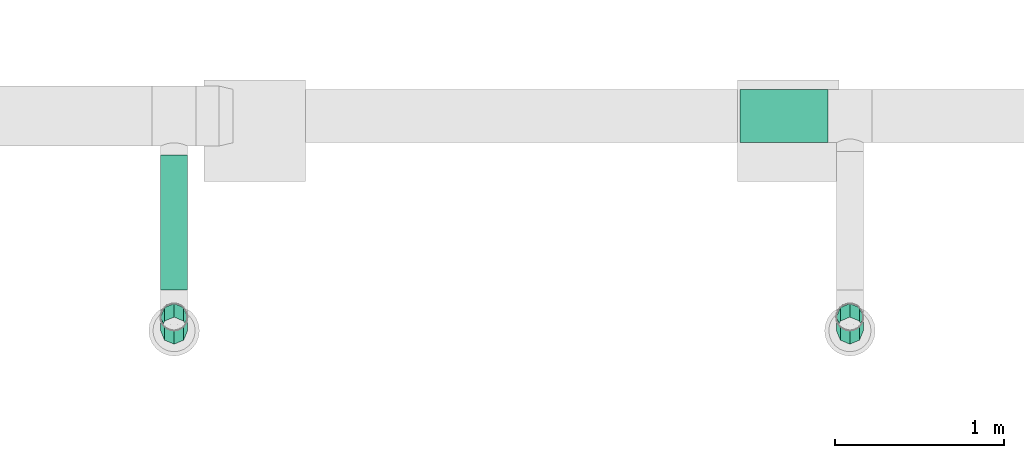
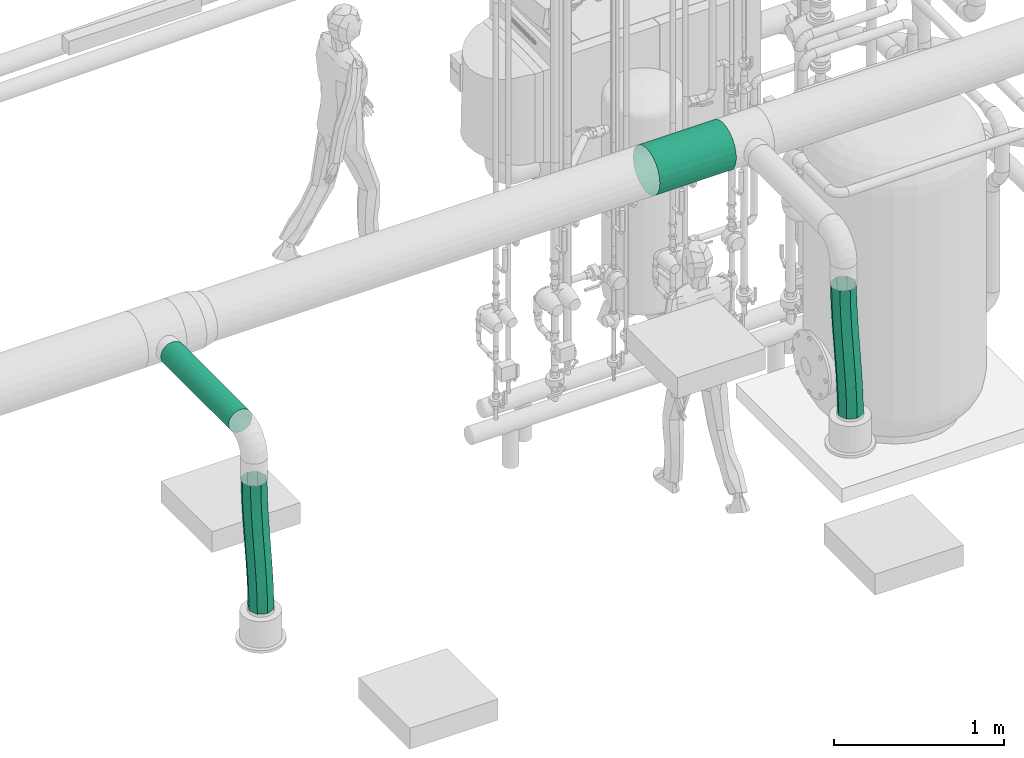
# One storey, part 249 of 374: 4 flow segments.
"""IFC2X3 building model written with IfcOpenShell, lengths in metres."""

from ifc_helpers import new_model, si_unit, direction, origin, place, context, subcontext, project, spatial, open_shell, surface_model, source, transform, mapped, element, save


model = new_model("IFC2X3")

# Units and contexts
model_context = context("Model", 3, precision=1e-05, world=origin(), true_north=direction((-0.4480736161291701, 0.8939966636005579)))
body_context = subcontext(model_context, "Body", "Model", "MODEL_VIEW")
ifc_project = project(units=[si_unit("LENGTHUNIT", "METRE"), si_unit("AREAUNIT", "SQUARE_METRE"), si_unit("VOLUMEUNIT", "CUBIC_METRE"), si_unit("PLANEANGLEUNIT", "RADIAN"), si_unit("THERMODYNAMICTEMPERATUREUNIT", "KELVIN"), si_unit("MASSUNIT", "GRAM", prefix="KILO"), si_unit("TIMEUNIT", "SECOND")], contexts=[model_context])

# Site, building, storey
site_placement = place(None, origin())
site = spatial("IfcSite", under=ifc_project, at=site_placement, Name="Site 1", CompositionType="ELEMENT")
building_placement = place(site_placement, origin())
building = spatial("IfcBuilding", under=site, at=building_placement, Name="Undefined", CompositionType="ELEMENT")
storey_placement = place(building_placement, origin())
storey = spatial("IfcBuildingStorey", under=building, at=storey_placement, Name="Rez de chauss\x8ee", CompositionType="ELEMENT", Elevation=0.0)

# Flow segments
shared_shape_1 = source(origin(), body_context, "Body", "SurfaceModel", [
    surface_model("IfcFaceBasedSurfaceModel", [(0.0, 0.020884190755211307, 0.0), (0.0, 0.0, 0.0), (0.8000010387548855, 0.0, -8.8817842e-16), (0.8000010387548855, 0.0208841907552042, -8.8817842e-16), (0.0, -0.020172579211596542, -0.005405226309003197), (0.8000010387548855, -0.020172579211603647, -0.005405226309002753), (0.0, -0.03825881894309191, -0.015847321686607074), (0.8000010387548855, -0.03825881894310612, -0.015847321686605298), (0.0, -0.05302617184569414, -0.0306146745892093), (0.8000010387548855, -0.05302617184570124, -0.03061467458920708), (0.0, -0.06346826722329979, -0.04870091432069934), (0.8000010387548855, -0.0634682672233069, -0.048700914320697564), (0.0, -0.06887349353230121, -0.06887349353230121), (0.8000010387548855, -0.06887349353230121, -0.06887349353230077), (0.0, -0.06887349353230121, -0.08975768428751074), (0.8000010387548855, -0.06887349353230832, -0.08975768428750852), (0.0, -0.06346826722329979, -0.10993026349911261), (0.8000010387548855, -0.0634682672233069, -0.10993026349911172), (0.0, -0.05302617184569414, -0.12801650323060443), (0.8000010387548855, -0.05302617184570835, -0.12801650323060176), (0.0, -0.038258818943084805, -0.14278385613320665), (0.8000010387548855, -0.03825881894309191, -0.142783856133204), (0.0, -0.020172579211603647, -0.15322595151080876), (0.8000010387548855, -0.020172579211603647, -0.1532259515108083), (0.0, 7.105427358e-15, -0.15863117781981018), (0.8000010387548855, -7.105427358e-15, -0.15863117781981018), (0.0, 0.020884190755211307, -0.15863117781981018), (0.8000010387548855, 0.0208841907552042, -0.15863117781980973), (0.0, 0.04105676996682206, -0.15322595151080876), (0.8000010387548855, 0.04105676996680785, -0.15322595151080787), (0.0, 0.05914300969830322, -0.1427838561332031), (0.8000010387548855, 0.05914300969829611, -0.142783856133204), (0.0, 0.07391036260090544, -0.12801650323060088), (0.8000010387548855, 0.07391036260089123, -0.12801650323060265), (0.0, 0.0843524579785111, -0.10993026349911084), (0.8000010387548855, 0.08435245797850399, -0.10993026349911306), (0.0, 0.08975768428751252, -0.08975768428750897), (0.8000010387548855, 0.08975768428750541, -0.08975768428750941), (0.0, 0.08975768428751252, -0.06887349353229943), (0.8000010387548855, 0.08975768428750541, -0.0688734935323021), (0.0, 0.0843524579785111, -0.048700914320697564), (0.8000010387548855, 0.08435245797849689, -0.04870091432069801), (0.0, 0.07391036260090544, -0.030614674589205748), (0.8000010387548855, 0.07391036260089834, -0.030614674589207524), (0.0, 0.05914300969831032, -0.015847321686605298), (0.8000010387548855, 0.05914300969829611, -0.01584732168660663), (0.0, 0.04105676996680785, -0.005405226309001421), (0.8000010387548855, 0.04105676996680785, -0.005405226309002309)], [open_shell([[[0, 1, 2, 3]], [[1, 4, 5, 2]], [[4, 6, 7, 5]], [[6, 8, 9, 7]], [[8, 10, 11, 9]], [[10, 12, 13, 11]], [[12, 14, 15, 13]], [[14, 16, 17, 15]], [[16, 18, 19, 17]], [[18, 20, 21, 19]], [[20, 22, 23, 21]], [[22, 24, 25, 23]], [[24, 26, 27, 25]], [[26, 28, 29, 27]], [[28, 30, 31, 29]], [[30, 32, 33, 31]], [[32, 34, 35, 33]], [[34, 36, 37, 35]], [[36, 38, 39, 37]], [[38, 40, 41, 39]], [[40, 42, 43, 41]], [[42, 44, 45, 43]], [[44, 46, 47, 45]], [[46, 0, 3, 47]]])]),
])
flow_segment_1_placement = place(storey_placement, origin())
element("IfcFlowSegment", 1, at=flow_segment_1_placement, inside=storey, Name="Tube", ObjectType="Tube", context=body_context, shape_type="MappedRepresentation", body=[
    mapped(shared_shape_1, transform((48.269295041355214, 7.994999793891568, 3.877274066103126), x_axis=(0.0, -1.0, 0.0), y_axis=(0.9914448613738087, 0.0, 0.13052619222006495), z_axis=(-0.13052619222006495, 0.0, 0.9914448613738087))),
])
shared_shape_2 = source(origin(), body_context, "Body", "SurfaceModel", [
    surface_model("IfcFaceBasedSurfaceModel", [(0.09591138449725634, 0.0, 0.0), (0.05777895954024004, 0.04790565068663, 0.0), (0.0, 0.0, 0.0), (0.03990852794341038, -0.04643643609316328, -1.0803024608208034e-06), (-0.055767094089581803, -0.049661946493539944, -0.0010921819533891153), (-0.014403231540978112, -0.09480686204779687, -0.0010661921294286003), (-0.10982705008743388, -0.10061373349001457, -0.0030471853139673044), (-0.0673621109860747, -0.14472448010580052, -0.0029825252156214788), (-0.16253987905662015, -0.15244487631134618, -0.005638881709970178), (-0.11930632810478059, -0.1958024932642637, -0.005537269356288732), (-0.21426131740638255, -0.2047537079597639, -0.008645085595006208), (-0.17057410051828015, -0.2476541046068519, -0.008517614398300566), (-0.26534080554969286, -0.25714537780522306, -0.011847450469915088), (-0.2215036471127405, -0.29989251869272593, -0.011710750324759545), (-0.31612041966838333, -0.30923055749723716, -0.015031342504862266), (-0.2724331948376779, -0.3521309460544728, -0.014903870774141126), (-0.3669345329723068, -0.3606249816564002, -0.017985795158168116), (-0.32370097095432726, -0.40398258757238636, -0.01788418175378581), (-0.41811014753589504, -0.4109498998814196, -0.020503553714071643), (-0.37564520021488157, -0.45506063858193, -0.02043889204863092), (-0.46996796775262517, -0.45983337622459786, -0.022381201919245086), (-0.42860410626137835, -0.5049782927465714, -0.022355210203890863), (-0.522824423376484, -0.5069122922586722, -0.023419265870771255), (-0.48291591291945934, -0.5533487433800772, -0.023420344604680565), (-0.5770512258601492, -0.5518794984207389, -0.02342150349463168), (-0.5389188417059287, -0.5997851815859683, -0.023421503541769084), (0.03053522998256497, 0.08155715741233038, -0.04329420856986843), (-0.027979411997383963, 0.03304294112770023, -0.04329376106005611), (-0.08434932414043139, -0.017153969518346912, -0.04439715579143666), (-0.13886536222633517, -0.06853412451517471, -0.04636817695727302), (-0.1918965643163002, -0.1206772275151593, -0.04897517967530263), (-0.24380592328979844, -0.1731754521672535, -0.05199209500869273), (-0.29494752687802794, -0.22563061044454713, -0.05519828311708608), (-0.34566504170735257, -0.27765231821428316, -0.05837835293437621), (-0.3962912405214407, -0.3288573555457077, -0.061322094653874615), (-0.4471484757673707, -0.37887030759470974, -0.06382454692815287), (-0.49855019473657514, -0.4273253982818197, -0.0656861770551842), (-0.5508037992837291, -0.47386932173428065, -0.06671302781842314), (-0.6042948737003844, -0.5182279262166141, -0.06671571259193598), (0.03013920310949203, 0.08124192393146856, -0.10452146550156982), (-0.02763974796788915, 0.03333628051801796, -0.10452146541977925), (-0.08340683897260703, -0.01632566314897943, -0.10561364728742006), (-0.13746679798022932, -0.06727745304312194, -0.10756865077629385), (-0.1901796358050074, -0.11910860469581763, -0.11016034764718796), (-0.24190108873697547, -0.17141745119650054, -0.11316655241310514), (-0.2929805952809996, -0.22380913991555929, -0.11636891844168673), (-0.34376022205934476, -0.2758943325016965, -0.11955281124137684), (-0.3945743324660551, -0.3272887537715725, -0.12250726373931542), (-0.4457499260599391, -0.377613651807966, -0.12502502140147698), (-0.49760770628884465, -0.4264970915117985, -0.126902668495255), (-0.5504641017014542, -0.47357595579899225, -0.12794073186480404), (-0.6046908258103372, -0.5185430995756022, -0.12794297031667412), (0.05682286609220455, 0.04714460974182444, -0.14781567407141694), (0.0008200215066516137, 0.0007081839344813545, -0.1478167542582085), (-0.053491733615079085, -0.047662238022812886, -0.14888186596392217), (-0.1064506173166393, -0.09757986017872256, -0.15079819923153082), (-0.15839484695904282, -0.14865788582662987, -0.15335294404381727), (-0.20966263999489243, -0.20050951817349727, -0.15633329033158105), (-0.26059221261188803, -0.25274795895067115, -0.15952642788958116), (-0.31152177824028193, -0.30498640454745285, -0.16271954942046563), (-0.36278955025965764, -0.356838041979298, -0.16569986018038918), (-0.4147337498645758, -0.4079160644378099, -0.16825456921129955), (-0.46769259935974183, -0.45783366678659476, -0.17017088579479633), (-0.522004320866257, -0.506204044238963, -0.17123601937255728), (-0.5780071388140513, -0.5526403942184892, -0.17123717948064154), (0.0949552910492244, -0.0007610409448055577, -0.14781567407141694), (0.04072854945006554, -0.04572825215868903, -0.14781783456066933), (-0.012127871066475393, -0.09280715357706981, -0.14885587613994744), (-0.06398567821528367, -0.14169060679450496, -0.15073353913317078), (-0.11516129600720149, -0.19201550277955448, -0.15325133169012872), (-0.16597542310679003, -0.24340991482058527, -0.1562058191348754), (-0.21675505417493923, -0.29549509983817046, -0.15938972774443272), (-0.26783455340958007, -0.34788679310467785, -0.16259207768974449), (-0.31955598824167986, -0.4001956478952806, -0.16559824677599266), (-0.3722688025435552, -0.45202680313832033, -0.16818990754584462), (-0.42632873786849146, -0.5029785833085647, -0.1701448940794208), (-0.48209581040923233, -0.552640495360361, -0.1712370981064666), (-0.5398747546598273, -0.6005460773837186, -0.17123717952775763), (0.12219902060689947, -0.03441254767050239, -0.10452146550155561), (0.06870796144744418, -0.07877119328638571, -0.10452407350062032), (0.016454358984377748, -0.12531513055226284, -0.105550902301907), (-0.03494736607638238, -0.17377021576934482, -0.10741254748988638), (-0.08580461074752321, -0.22378315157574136, -0.10991503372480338), (-0.13643081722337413, -0.2749881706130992, -0.11285880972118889), (-0.1871483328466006, -0.3270098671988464, -0.11603889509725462), (-0.23828993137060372, -0.37946503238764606, -0.11924506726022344), (-0.2901992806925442, -0.43196327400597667, -0.12226194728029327), (-0.3432304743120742, -0.48410639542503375, -0.12486891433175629), (-0.3977465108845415, -0.5354865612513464, -0.12683991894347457), (-0.45411643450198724, -0.5856834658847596, -0.1279433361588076), (-0.5126311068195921, -0.6341976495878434, -0.12794297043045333), (0.12259504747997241, -0.034097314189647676, -0.043294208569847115), (0.06836829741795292, -0.07906453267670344, -0.043296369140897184), (0.015511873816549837, -0.12614343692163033, -0.044334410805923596), (-0.03634593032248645, -0.1750268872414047, -0.046212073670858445), (-0.08752153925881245, -0.22535177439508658, -0.04872986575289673), (-0.13833565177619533, -0.2767461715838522, -0.05168435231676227), (-0.1891152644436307, -0.32883133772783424, -0.054868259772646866), (-0.24019475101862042, -0.3812230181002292, -0.05807060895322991), (-0.2919161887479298, -0.4335318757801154, -0.06107677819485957), (-0.34462902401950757, -0.485363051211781, -0.06366843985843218), (-0.39868899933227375, -0.5363148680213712, -0.06562342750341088), (-0.45445613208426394, -0.5859768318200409, -0.06671563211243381), (-0.5122351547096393, -0.6338824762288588, -0.06671571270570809)], [open_shell([[[0, 1, 2]], [[2, 3, 0]], [[3, 2, 4]], [[4, 5, 3]], [[5, 4, 6]], [[6, 7, 5]], [[7, 6, 8]], [[8, 9, 7]], [[9, 8, 10]], [[10, 11, 9]], [[11, 10, 12]], [[12, 13, 11]], [[13, 12, 14]], [[14, 15, 13]], [[15, 14, 16]], [[16, 17, 15]], [[17, 16, 18]], [[18, 19, 17]], [[19, 18, 20]], [[20, 21, 19]], [[21, 20, 22]], [[22, 23, 21]], [[23, 22, 24]], [[24, 25, 23]], [[1, 26, 27]], [[27, 2, 1]], [[2, 27, 28]], [[28, 4, 2]], [[4, 28, 29]], [[29, 6, 4]], [[6, 29, 30]], [[30, 8, 6]], [[8, 30, 31]], [[31, 10, 8]], [[10, 31, 32]], [[32, 12, 10]], [[12, 32, 33]], [[33, 14, 12]], [[14, 33, 34]], [[34, 16, 14]], [[16, 34, 35]], [[35, 18, 16]], [[18, 35, 36]], [[36, 20, 18]], [[20, 36, 37]], [[37, 22, 20]], [[22, 37, 38]], [[38, 24, 22]], [[26, 39, 40]], [[40, 27, 26]], [[27, 40, 41]], [[41, 28, 27]], [[28, 41, 42]], [[42, 29, 28]], [[29, 42, 43]], [[43, 30, 29]], [[30, 43, 44]], [[44, 31, 30]], [[31, 44, 45]], [[45, 32, 31]], [[32, 45, 46]], [[46, 33, 32]], [[33, 46, 47]], [[47, 34, 33]], [[34, 47, 48]], [[48, 35, 34]], [[35, 48, 49]], [[49, 36, 35]], [[36, 49, 50]], [[50, 37, 36]], [[37, 50, 51]], [[51, 38, 37]], [[39, 52, 53]], [[53, 40, 39]], [[40, 53, 54]], [[54, 41, 40]], [[41, 54, 55]], [[55, 42, 41]], [[42, 55, 56]], [[56, 43, 42]], [[43, 56, 57]], [[57, 44, 43]], [[44, 57, 58]], [[58, 45, 44]], [[45, 58, 59]], [[59, 46, 45]], [[46, 59, 60]], [[60, 47, 46]], [[47, 60, 61]], [[61, 48, 47]], [[48, 61, 62]], [[62, 49, 48]], [[49, 62, 63]], [[63, 50, 49]], [[50, 63, 64]], [[64, 51, 50]], [[52, 65, 66]], [[66, 53, 52]], [[53, 66, 67]], [[67, 54, 53]], [[54, 67, 68]], [[68, 55, 54]], [[55, 68, 69]], [[69, 56, 55]], [[56, 69, 70]], [[70, 57, 56]], [[57, 70, 71]], [[71, 58, 57]], [[58, 71, 72]], [[72, 59, 58]], [[59, 72, 73]], [[73, 60, 59]], [[60, 73, 74]], [[74, 61, 60]], [[61, 74, 75]], [[75, 62, 61]], [[62, 75, 76]], [[76, 63, 62]], [[63, 76, 77]], [[77, 64, 63]], [[65, 78, 79]], [[79, 66, 65]], [[66, 79, 80]], [[80, 67, 66]], [[67, 80, 81]], [[81, 68, 67]], [[68, 81, 82]], [[82, 69, 68]], [[69, 82, 83]], [[83, 70, 69]], [[70, 83, 84]], [[84, 71, 70]], [[71, 84, 85]], [[85, 72, 71]], [[72, 85, 86]], [[86, 73, 72]], [[73, 86, 87]], [[87, 74, 73]], [[74, 87, 88]], [[88, 75, 74]], [[75, 88, 89]], [[89, 76, 75]], [[76, 89, 90]], [[90, 77, 76]], [[78, 91, 92]], [[92, 79, 78]], [[79, 92, 93]], [[93, 80, 79]], [[80, 93, 94]], [[94, 81, 80]], [[81, 94, 95]], [[95, 82, 81]], [[82, 95, 96]], [[96, 83, 82]], [[83, 96, 97]], [[97, 84, 83]], [[84, 97, 98]], [[98, 85, 84]], [[85, 98, 99]], [[99, 86, 85]], [[86, 99, 100]], [[100, 87, 86]], [[87, 100, 101]], [[101, 88, 87]], [[88, 101, 102]], [[102, 89, 88]], [[89, 102, 103]], [[103, 90, 89]], [[91, 0, 3]], [[3, 92, 91]], [[92, 3, 5]], [[5, 93, 92]], [[93, 5, 7]], [[7, 94, 93]], [[94, 7, 9]], [[9, 95, 94]], [[95, 9, 11]], [[11, 96, 95]], [[96, 11, 13]], [[13, 97, 96]], [[97, 13, 15]], [[15, 98, 97]], [[98, 15, 17]], [[17, 99, 98]], [[99, 17, 19]], [[19, 100, 99]], [[100, 19, 21]], [[21, 101, 100]], [[101, 21, 23]], [[23, 102, 101]], [[102, 23, 25]], [[25, 103, 102]]])]),
])
flow_segment_2_placement = place(storey_placement, origin())
element("IfcFlowSegment", 2, at=flow_segment_2_placement, inside=storey, Name="Tube flexible", ObjectType="Tube flexible", context=body_context, shape_type="MappedRepresentation", body=[
    mapped(shared_shape_2, transform((48.23343202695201, 7.089946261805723, 3.4049617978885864), x_axis=(-0.24430324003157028, -0.5728986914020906, 0.7823701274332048), y_axis=(0.2946538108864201, 0.7248106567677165, 0.6227588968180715), z_axis=(-0.9238479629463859, 0.38267035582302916, -0.008266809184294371))),
])
shared_shape_3 = source(origin(), body_context, "Body", "SurfaceModel", [
    surface_model("IfcFaceBasedSurfaceModel", [(0.0, 0.04111575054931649, 0.0), (0.0, 0.0, 0.0), (0.5200031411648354, 0.0, 0.0), (0.5200031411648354, 0.041115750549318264, 0.0), (0.0, -0.03971476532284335, -0.010641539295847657), (0.5200031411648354, -0.03971476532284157, -0.010641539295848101), (0.0, -0.0753220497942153, -0.0311994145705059), (0.5200031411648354, -0.07532204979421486, -0.0311994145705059), (0.0, -0.10439527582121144, -0.060272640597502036), (0.5200031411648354, -0.10439527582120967, -0.06027264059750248), (0.0, -0.12495315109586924, -0.09587992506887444), (0.5200031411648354, -0.12495315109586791, -0.09587992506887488), (0.0, -0.13559469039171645, -0.13559469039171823), (0.5200031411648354, -0.13559469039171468, -0.1355946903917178), (0.0, -0.135594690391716, -0.17671044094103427), (0.5200031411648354, -0.13559469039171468, -0.17671044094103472), (0.0, -0.1249531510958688, -0.21642520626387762), (0.5200031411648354, -0.12495315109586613, -0.21642520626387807), (0.0, -0.10439527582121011, -0.2520324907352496), (0.5200031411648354, -0.10439527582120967, -0.2520324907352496), (0.0, -0.07532204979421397, -0.2811057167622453), (0.5200031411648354, -0.07532204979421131, -0.2811057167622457), (0.0, -0.039714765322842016, -0.3016635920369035), (0.5200031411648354, -0.03971476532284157, -0.3016635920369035), (0.0, 1.776356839e-15, -0.3123051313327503), (0.5200031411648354, 3.552713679e-15, -0.3123051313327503), (0.0, 0.041115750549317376, -0.31230513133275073), (0.5200031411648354, 0.041115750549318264, -0.3123051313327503), (0.0, 0.08083051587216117, -0.30166359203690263), (0.5200031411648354, 0.08083051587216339, -0.30166359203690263), (0.0, 0.11643780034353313, -0.28110571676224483), (0.5200031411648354, 0.11643780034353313, -0.2811057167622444), (0.0, 0.14551102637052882, -0.25203249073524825), (0.5200031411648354, 0.14551102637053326, -0.25203249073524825), (0.0, 0.16606890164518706, -0.2164252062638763), (0.5200031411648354, 0.16606890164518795, -0.21642520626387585), (0.0, 0.17671044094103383, -0.1767104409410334), (0.5200031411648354, 0.1767104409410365, -0.17671044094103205), (0.0, 0.17671044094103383, -0.1355946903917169), (0.5200031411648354, 0.17671044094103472, -0.135594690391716), (0.0, 0.16606890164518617, -0.09587992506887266), (0.5200031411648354, 0.16606890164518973, -0.09587992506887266), (0.0, 0.14551102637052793, -0.06027264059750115), (0.5200031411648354, 0.14551102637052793, -0.060272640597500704), (0.0, 0.1164378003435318, -0.031199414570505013), (0.5200031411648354, 0.11643780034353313, -0.031199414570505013), (0.0, 0.08083051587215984, -0.010641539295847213), (0.5200031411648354, 0.08083051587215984, -0.01064153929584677)], [open_shell([[[0, 1, 2, 3]], [[1, 4, 5, 2]], [[4, 6, 7, 5]], [[6, 8, 9, 7]], [[8, 10, 11, 9]], [[10, 12, 13, 11]], [[12, 14, 15, 13]], [[14, 16, 17, 15]], [[16, 18, 19, 17]], [[18, 20, 21, 19]], [[20, 22, 23, 21]], [[22, 24, 25, 23]], [[24, 26, 27, 25]], [[26, 28, 29, 27]], [[28, 30, 31, 29]], [[30, 32, 33, 31]], [[32, 34, 35, 33]], [[34, 36, 37, 35]], [[36, 38, 39, 37]], [[38, 40, 41, 39]], [[40, 42, 43, 41]], [[42, 44, 45, 43]], [[44, 46, 47, 45]], [[46, 0, 3, 47]]])]),
])
flow_segment_3_placement = place(storey_placement, origin())
element("IfcFlowSegment", 3, at=flow_segment_3_placement, inside=storey, Name="Tube", ObjectType="Tube", context=body_context, shape_type="MappedRepresentation", body=[
    mapped(shared_shape_3, transform((51.640000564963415, 8.18423579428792, 3.952133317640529), x_axis=(1.0, 0.0, 0.0), y_axis=(0.0, 0.9914448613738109, 0.1305261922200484), z_axis=(0.0, -0.1305261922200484, 0.9914448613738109))),
])
shared_shape_4 = source(origin(), body_context, "Body", "SurfaceModel", [
    surface_model("IfcFaceBasedSurfaceModel", [(0.09591138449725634, 0.0, 0.0), (0.05777895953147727, 0.04790565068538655, 7.105427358e-15), (0.0, 0.0, 0.0), (0.03990852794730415, -0.04643643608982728, -1.0803022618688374e-06), (-0.055767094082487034, -0.0496619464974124, -0.0010921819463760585), (-0.014403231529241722, -0.09480686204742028, -0.0010661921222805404), (-0.10982705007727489, -0.10061373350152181, -0.0030471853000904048), (-0.06736211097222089, -0.14472448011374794, -0.002982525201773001), (-0.1625398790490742, -0.15244487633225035, -0.005638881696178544), (-0.11930632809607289, -0.19580249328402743, -0.005537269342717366), (-0.21426131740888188, -0.20475370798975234, -0.008645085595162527), (-0.1705741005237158, -0.24765410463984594, -0.008517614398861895), (-0.2653408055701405, -0.25714537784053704, -0.011847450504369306), (-0.2215036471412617, -0.2998925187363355, -0.011710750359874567), (-0.3161204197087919, -0.30923055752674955, -0.015031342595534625), (-0.2724331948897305, -0.3521309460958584, -0.01490387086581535), (-0.3669345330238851, -0.3606249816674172, -0.0179857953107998), (-0.32370097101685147, -0.4039825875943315, -0.017884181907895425), (-0.4181101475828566, -0.41094989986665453, -0.020503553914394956), (-0.37564520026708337, -0.455060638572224, -0.020438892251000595), (-0.4699679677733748, -0.4598333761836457, -0.02238120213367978), (-0.4286041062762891, -0.5049782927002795, -0.0223552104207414), (-0.5228244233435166, -0.5069122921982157, -0.023419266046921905), (-0.4829159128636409, -0.5533487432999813, -0.023420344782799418), (-0.5770512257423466, -0.5518794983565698, -0.02342150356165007), (-0.5389188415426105, -0.5997851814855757, -0.02342150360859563), (0.03053522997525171, 0.08155715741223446, -0.04329420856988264), (-0.027979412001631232, 0.03304294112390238, -0.04329376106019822), (-0.08434932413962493, -0.017153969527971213, -0.04439715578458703), (-0.13886536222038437, -0.06853412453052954, -0.04636817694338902), (-0.1918965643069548, -0.12067722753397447, -0.04897517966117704), (-0.24380592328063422, -0.1731754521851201, -0.051992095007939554), (-0.29494752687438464, -0.225630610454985, -0.05519828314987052), (-0.3456650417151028, -0.2776523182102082, -0.058378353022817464), (-0.3962912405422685, -0.3288573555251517, -0.06132209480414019), (-0.44714847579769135, -0.3788703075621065, -0.06382454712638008), (-0.4985501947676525, -0.42732539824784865, -0.06568617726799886), (-0.5508037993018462, -0.4738693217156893, -0.06671302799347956), (-0.6042948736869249, -0.5182279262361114, -0.06671571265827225), (0.03013920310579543, 0.08124192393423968, -0.10452146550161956), (-0.02763974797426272, 0.03333628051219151, -0.10452146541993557), (-0.08340683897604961, -0.0163256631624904, -0.10561364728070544), (-0.1374667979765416, -0.0672774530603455, -0.10756865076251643), (-0.19017963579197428, -0.11910860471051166, -0.11016034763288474), (-0.24190108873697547, -0.17141745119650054, -0.11316655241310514), (-0.2929805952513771, -0.22380913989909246, -0.11636891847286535), (-0.3437602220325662, -0.27589433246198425, -0.1195528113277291), (-0.3945743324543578, -0.32728875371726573, -0.12250726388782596), (-0.44574992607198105, -0.3776136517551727, -0.12502502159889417), (-0.4976077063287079, -0.42649709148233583, -0.12690266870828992), (-0.5504641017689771, -0.47357595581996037, -0.1279407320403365), (-0.6046908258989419, -0.5185430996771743, -0.12794297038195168), (0.0568228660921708, 0.047144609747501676, -0.1478156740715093), (0.0008200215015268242, 0.0007081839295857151, -0.14781675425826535), (-0.053491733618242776, -0.047662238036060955, -0.14888186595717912), (-0.1064506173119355, -0.09757986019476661, -0.15079819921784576), (-0.15839484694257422, -0.14865788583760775, -0.15335294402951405), (-0.20966263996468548, -0.20050951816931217, -0.15633329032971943), (-0.2605922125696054, -0.2527479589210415, -0.15952642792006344), (-0.3115217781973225, -0.30498640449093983, -0.1627195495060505), (-0.36278955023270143, -0.35683804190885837, -0.16569986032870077), (-0.41473374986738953, -0.4079160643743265, -0.1682545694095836), (-0.4676925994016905, -0.45783366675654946, -0.17017088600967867), (-0.5220043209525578, -0.5062040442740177, -0.17123601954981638), (-0.5780071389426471, -0.5526403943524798, -0.17123717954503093), (0.09495529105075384, -0.0007610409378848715, -0.1478156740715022), (0.04072854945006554, -0.04572825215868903, -0.14781783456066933), (-0.012127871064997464, -0.09280715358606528, -0.1488558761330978), (-0.06398567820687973, -0.14169060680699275, -0.15073353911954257), (-0.11516129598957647, -0.19201550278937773, -0.15325133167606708), (-0.16597542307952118, -0.24340991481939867, -0.15620581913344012), (-0.21675505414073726, -0.2954950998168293, -0.1593897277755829), (-0.2678345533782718, -0.347886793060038, -0.16259207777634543), (-0.31955598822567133, -0.40019564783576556, -0.1655982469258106), (-0.37226880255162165, -0.4520268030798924, -0.16818990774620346), (-0.42632873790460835, -0.5029785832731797, -0.1701448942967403), (-0.482095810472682, -0.5526404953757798, -0.17123709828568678), (-0.5398747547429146, -0.6005460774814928, -0.17123717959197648), (0.1221990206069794, -0.03441254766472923, -0.10452146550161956), (0.06870796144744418, -0.07877119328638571, -0.10452407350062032), (0.016454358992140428, -0.12531513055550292, -0.10555090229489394), (-0.03494736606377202, -0.17377021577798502, -0.10741254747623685), (-0.08580461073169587, -0.2237831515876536, -0.10991503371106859), (-0.13643081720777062, -0.2749881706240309, -0.11285880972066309), (-0.18714833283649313, -0.3270098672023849, -0.1160388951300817), (-0.23828993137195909, -0.37946503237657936, -0.1192450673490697), (-0.29019928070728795, -0.431963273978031, -0.122261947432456), (-0.34323047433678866, -0.484106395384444, -0.12486891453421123), (-0.3977465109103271, -0.5354865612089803, -0.126839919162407), (-0.45411643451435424, -0.5856834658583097, -0.12794333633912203), (-0.5126311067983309, -0.6341976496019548, -0.12794297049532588), (0.12259504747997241, -0.034097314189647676, -0.043294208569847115), (0.06836829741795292, -0.07906453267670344, -0.043296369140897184), (0.015511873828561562, -0.12614343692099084, -0.04433441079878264), (-0.036345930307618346, -0.1750268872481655, -0.04621207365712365), (-0.08752153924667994, -0.22535177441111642, -0.048729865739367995), (-0.13833565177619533, -0.2767461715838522, -0.05168435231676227), (-0.1891152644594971, -0.328831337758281, -0.05486825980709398), (-0.2401947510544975, -0.38122301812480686, -0.05807060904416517), (-0.29191618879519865, -0.433531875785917, -0.06107677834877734), (-0.34462902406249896, -0.48536305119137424, -0.06366844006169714), (-0.3986889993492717, -0.5363148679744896, -0.06562342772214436), (-0.4544561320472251, -0.585976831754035, -0.06671563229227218), (-0.512235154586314, -0.6338824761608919, -0.06671571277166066)], [open_shell([[[0, 1, 2]], [[2, 3, 0]], [[3, 2, 4]], [[4, 5, 3]], [[5, 4, 6]], [[6, 7, 5]], [[7, 6, 8]], [[8, 9, 7]], [[9, 8, 10]], [[10, 11, 9]], [[11, 10, 12]], [[12, 13, 11]], [[13, 12, 14]], [[14, 15, 13]], [[15, 14, 16]], [[16, 17, 15]], [[17, 16, 18]], [[18, 19, 17]], [[19, 18, 20]], [[20, 21, 19]], [[21, 20, 22]], [[22, 23, 21]], [[23, 22, 24]], [[24, 25, 23]], [[1, 26, 27]], [[27, 2, 1]], [[2, 27, 28]], [[28, 4, 2]], [[4, 28, 29]], [[29, 6, 4]], [[6, 29, 30]], [[30, 8, 6]], [[8, 30, 31]], [[31, 10, 8]], [[10, 31, 32]], [[32, 12, 10]], [[12, 32, 33]], [[33, 14, 12]], [[14, 33, 34]], [[34, 16, 14]], [[16, 34, 35]], [[35, 18, 16]], [[18, 35, 36]], [[36, 20, 18]], [[20, 36, 37]], [[37, 22, 20]], [[22, 37, 38]], [[38, 24, 22]], [[26, 39, 40]], [[40, 27, 26]], [[27, 40, 41]], [[41, 28, 27]], [[28, 41, 42]], [[42, 29, 28]], [[29, 42, 43]], [[43, 30, 29]], [[30, 43, 44]], [[44, 31, 30]], [[31, 44, 45]], [[45, 32, 31]], [[32, 45, 46]], [[46, 33, 32]], [[33, 46, 47]], [[47, 34, 33]], [[34, 47, 48]], [[48, 35, 34]], [[35, 48, 49]], [[49, 36, 35]], [[36, 49, 50]], [[50, 37, 36]], [[37, 50, 51]], [[51, 38, 37]], [[39, 52, 53]], [[53, 40, 39]], [[40, 53, 54]], [[54, 41, 40]], [[41, 54, 55]], [[55, 42, 41]], [[42, 55, 56]], [[56, 43, 42]], [[43, 56, 57]], [[57, 44, 43]], [[44, 57, 58]], [[58, 45, 44]], [[45, 58, 59]], [[59, 46, 45]], [[46, 59, 60]], [[60, 47, 46]], [[47, 60, 61]], [[61, 48, 47]], [[48, 61, 62]], [[62, 49, 48]], [[49, 62, 63]], [[63, 50, 49]], [[50, 63, 64]], [[64, 51, 50]], [[52, 65, 66]], [[66, 53, 52]], [[53, 66, 67]], [[67, 54, 53]], [[54, 67, 68]], [[68, 55, 54]], [[55, 68, 69]], [[69, 56, 55]], [[56, 69, 70]], [[70, 57, 56]], [[57, 70, 71]], [[71, 58, 57]], [[58, 71, 72]], [[72, 59, 58]], [[59, 72, 73]], [[73, 60, 59]], [[60, 73, 74]], [[74, 61, 60]], [[61, 74, 75]], [[75, 62, 61]], [[62, 75, 76]], [[76, 63, 62]], [[63, 76, 77]], [[77, 64, 63]], [[65, 78, 79]], [[79, 66, 65]], [[66, 79, 80]], [[80, 67, 66]], [[67, 80, 81]], [[81, 68, 67]], [[68, 81, 82]], [[82, 69, 68]], [[69, 82, 83]], [[83, 70, 69]], [[70, 83, 84]], [[84, 71, 70]], [[71, 84, 85]], [[85, 72, 71]], [[72, 85, 86]], [[86, 73, 72]], [[73, 86, 87]], [[87, 74, 73]], [[74, 87, 88]], [[88, 75, 74]], [[75, 88, 89]], [[89, 76, 75]], [[76, 89, 90]], [[90, 77, 76]], [[78, 91, 92]], [[92, 79, 78]], [[79, 92, 93]], [[93, 80, 79]], [[80, 93, 94]], [[94, 81, 80]], [[81, 94, 95]], [[95, 82, 81]], [[82, 95, 96]], [[96, 83, 82]], [[83, 96, 97]], [[97, 84, 83]], [[84, 97, 98]], [[98, 85, 84]], [[85, 98, 99]], [[99, 86, 85]], [[86, 99, 100]], [[100, 87, 86]], [[87, 100, 101]], [[101, 88, 87]], [[88, 101, 102]], [[102, 89, 88]], [[89, 102, 103]], [[103, 90, 89]], [[91, 0, 3]], [[3, 92, 91]], [[92, 3, 5]], [[5, 93, 92]], [[93, 5, 7]], [[7, 94, 93]], [[94, 7, 9]], [[9, 95, 94]], [[95, 9, 11]], [[11, 96, 95]], [[96, 11, 13]], [[13, 97, 96]], [[97, 13, 15]], [[15, 98, 97]], [[98, 15, 17]], [[17, 99, 98]], [[99, 17, 19]], [[19, 100, 99]], [[100, 19, 21]], [[21, 101, 100]], [[101, 21, 23]], [[23, 102, 101]], [[102, 23, 25]], [[25, 103, 102]]])]),
])
flow_segment_4_placement = place(storey_placement, origin())
element("IfcFlowSegment", 4, at=flow_segment_4_placement, inside=storey, Name="Tube flexible", ObjectType="Tube flexible", context=body_context, shape_type="MappedRepresentation", body=[
    mapped(shared_shape_4, transform((52.23343516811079, 7.089946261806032, 3.404961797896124), x_axis=(-0.24430323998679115, -0.5728986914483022, 0.7823701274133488), y_axis=(0.2946538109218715, 0.7248106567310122, 0.6227588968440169), z_axis=(-0.9238479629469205, 0.3826703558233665, -0.008266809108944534))),
])

save(model, "model.ifc")
